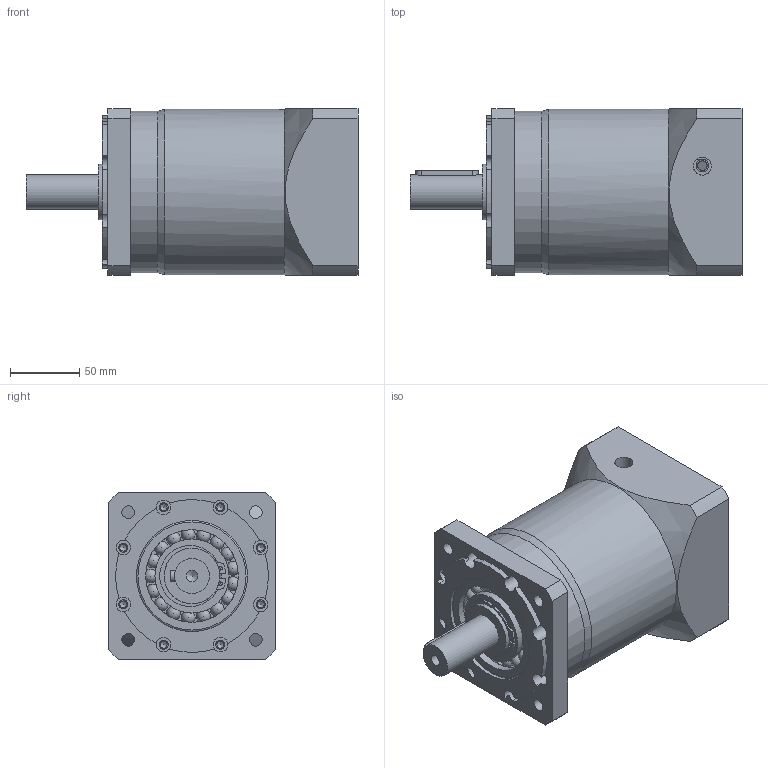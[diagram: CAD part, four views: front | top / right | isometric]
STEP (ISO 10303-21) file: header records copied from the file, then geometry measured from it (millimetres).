
FILE_DESCRIPTION(/* description */ (''),/* implementation_level */ '2;1');
FILE_NAME(/* name */ 'PLF120-L2-LC 22-110-145-M8.stp',/* time_stamp */ '2022-01-16T13:06:18+08:00',/* author */ (''),/* organization */ (''),/* preprocessor_version */ 'ST-DEVELOPER v16.7',/* originating_system */ 'SIEMENS PLM Software NX 12.0',/* authorisation */ '');
FILE_SCHEMA (('AP203_CONFIGURATION_CONTROLLED_3D_DESIGN_OF_MECHANICAL_PARTS_AND_ASSEMBLIES_MIM_LF { 1 0 10303 403 2 1 2}'));
Length unit declared in the file: millimetre
Products named in the file (1): PLF120-L2-LC  22-110-145-M8
Bounding box: 239 x 120 x 120 mm (x, y, z)
Volume: 1856088.3 mm3; surface area: 188886.4 mm2
Topology: 2 solids, 14 shells, 301 faces, 851 edges, 565 vertices
Faces by surface type: cylinder 118, plane 104, torus 38, cone 23, sphere 17, bspline 1
Full cylindrical faces by diameter (mm): 2.5 x2, 5 x14, 6.5 x12, 6.8 x6, 8.5 x1, 9 x6, 10.5 x8, 11 x4, 13 x2, 22 x1, 25 x1, 26 x1, 37.5 x1, 40 x3, 53.333 x2, 66.667 x2, 70 x1, 80 x2, 80.667 x1, 83.6 x1, 95 x1, 95.9 x2, 100 x2, 116 x1, 119 x1
Entity records: 11294 total; most frequent: CARTESIAN_POINT 2237, DIRECTION 1406, ORIENTED_EDGE 1282, EDGE_CURVE 641, AXIS2_PLACEMENT_3D 617, VERTEX_POINT 494, EDGE_LOOP 476, FACE_BOUND 369
